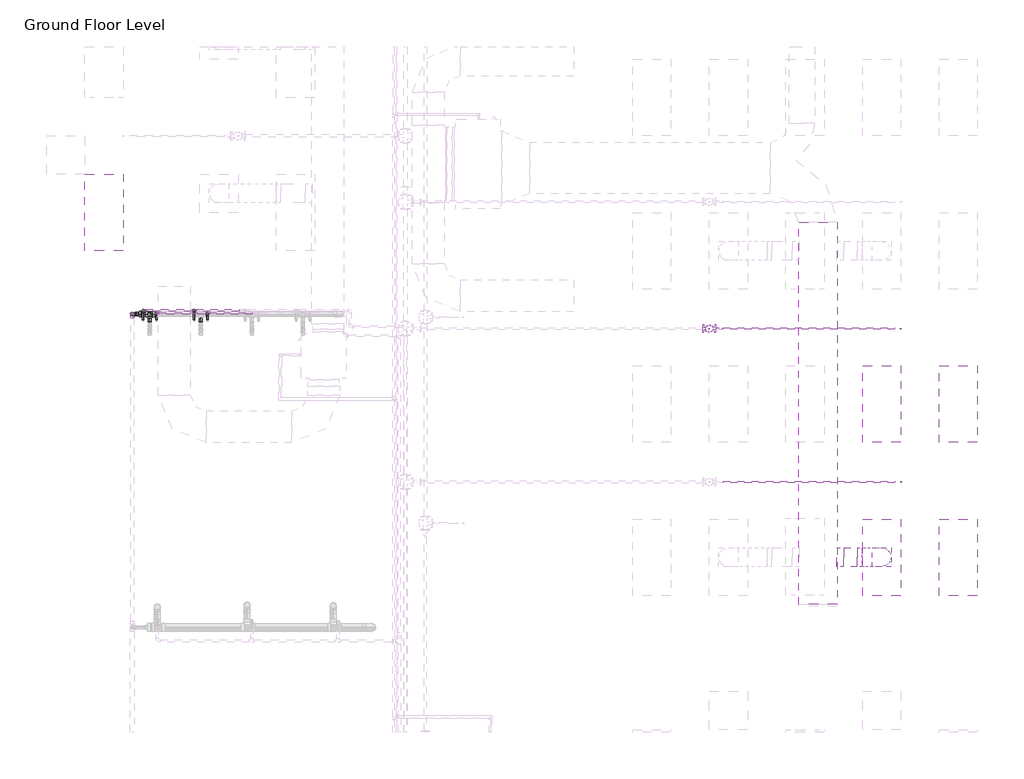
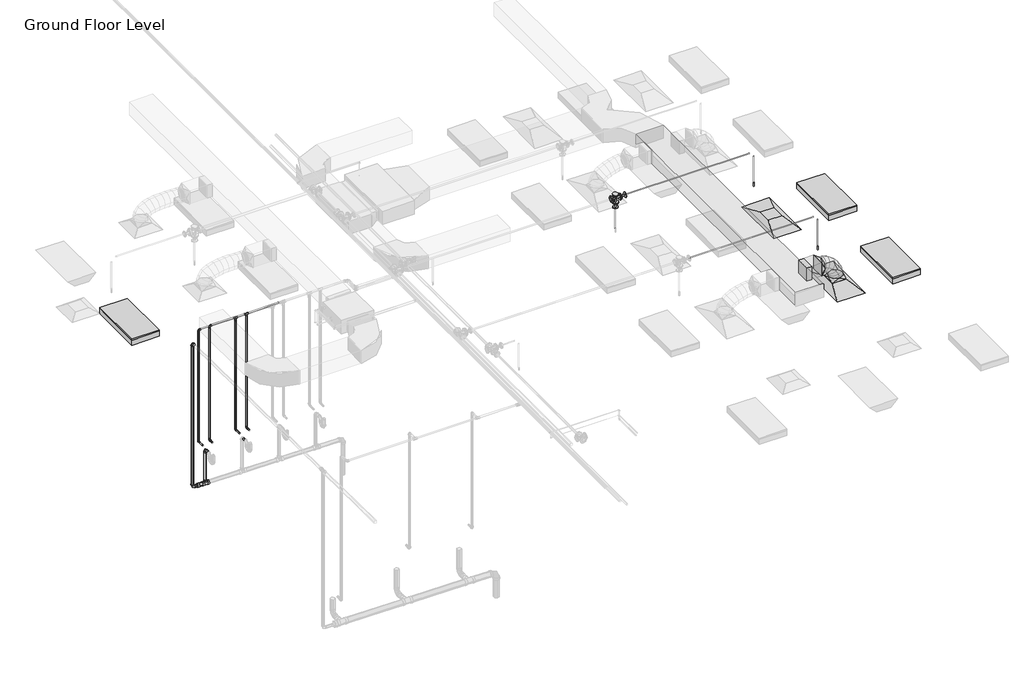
# One storey, part 23 of 74: 23 pipe segments, 16 pipe fittings, 3 duct fittings, 3 duct segments, 3 light fixtures, 2 air terminals, 2 fire suppression terminals.
"""IFC4 building model written with IfcOpenShell, lengths in millimetres."""

from ifc_helpers import new_model, si_unit, point, frame, frame_2d, origin, place, context, project, spatial, polyline, circle_curve, ellipse_curve, trimmed, segment, composite_curve, outline, extrude, transform, mapped, element, save
from ifc_brep_helpers import plane_surface, cylinder_surface, advanced_brep
from components import m_return_diffuser_1200x600_1200_x_600_face_300_x_300_d1983ef6, m_rectangular_takeoff_standard_cb0ccb98, m_rectangular_to_round_transition_angle_45_degree_641efff0, m_sprinkler_dry_pendent_hosted_15_mm_dry_pendent_9bda8e11, m_troffer_light_parabolic_rectangular1_0600x1200mm_4_lamp_86473d4a, m_bend_pvc_sch_40_dwv_standard_1e7bdcc1, m_bend_pvc_sch_40_dwv_standard_b3f66ba9, m_bend_pvc_sch_40_dwv_standard_8255d195, m_reducer_flanged_cs_class_150_standard_ccf252ad, m_reducer_pvc_sch_40_dwv_standard_391ccf0e, m_tee_reducing_sanitary_pvc_sch_40_dwv_standard_21d2848c, m_tee_round_base_flanged_cs_class_150_standard_7e5987a1, standard_b266ab3f, standard_636910a4

model = new_model("IFC4")

# Units and contexts
model_context = context("Model", 3, world=origin())
ifc_project = project(units=[si_unit("LENGTHUNIT", "METRE", prefix="MILLI")], contexts=[model_context])

# Site, building, storey
site = spatial("IfcSite", under=ifc_project)
building = spatial("IfcBuilding", under=site)
storey = spatial("IfcBuildingStorey", under=building, Name="Ground Floor Level", Elevation=900.0)

# Air terminals
placement = place(None, origin())
m_return_diffuser_1200x600_1200_x_600_face_300_x_300_shape = m_return_diffuser_1200x600_1200_x_600_face_300_x_300_d1983ef6(model_context)
element("IfcAirTerminal", 1, ObjectType="M_Return Diffuser 1200x600 : 1200 x 600 Face 300 x 300 Connection", at=placement, inside=storey, context=model_context, shape_type="MappedRepresentation", body=[
    mapped(m_return_diffuser_1200x600_1200_x_600_face_300_x_300_shape, transform((13143.0482736, -25264.7846466, 3650.0), x_axis=(0.0, 1.0, 0.0), y_axis=(-1.0, 0.0, 0.0), z_axis=(0.0, 0.0, 1.0))),
])
element("IfcAirTerminal", 2, ObjectType="M_Supply Diffuser 1200x600 : 1200 x 600 Face 300 x 300 Connection", at=placement, inside=storey, context=model_context, shape_type="MappedRepresentation", body=[
    mapped(m_return_diffuser_1200x600_1200_x_600_face_300_x_300_shape, transform((13143.0482736, -27664.7846466, 3650.0), x_axis=(0.0, 1.0, 0.0), y_axis=(-1.0, 0.0, 0.0), z_axis=(0.0, 0.0, 1.0))),
])

# Duct fittings
m_rectangular_takeoff_standard_shape = m_rectangular_takeoff_standard_cb0ccb98(model_context)
element("IfcDuctFitting", 3, ObjectType="M_Rectangular Takeoff : Standard", at=placement, inside=storey, context=model_context, shape_type="MappedRepresentation", body=[
    mapped(m_rectangular_takeoff_standard_shape, transform((12447.7826463, -27664.7846466, 4150.0), x_axis=(1.0, 0.0, 0.0), y_axis=(0.0, -1.0, 0.0), z_axis=(0.0, 0.0, -1.0))),
])
m_rectangular_to_round_transition_angle_45_degree_shape = m_rectangular_to_round_transition_angle_45_degree_641efff0(model_context)
element("IfcDuctFitting", 4, ObjectType="M_Rectangular to Round Transition - Angle : 45 Degree", at=placement, inside=storey, context=model_context, shape_type="MappedRepresentation", body=[
    mapped(m_rectangular_to_round_transition_angle_45_degree_shape, transform((13143.0482736, -27664.7846466, 3751.6), x_axis=(0.0, 0.0, 1.0), y_axis=(-1.0, 0.0, 0.0), z_axis=(0.0, -1.0, 0.0))),
])
element("IfcDuctFitting", 5, ObjectType="M_Rectangular to Round Transition - Angle : 45 Degree", at=placement, inside=storey, context=model_context, shape_type="MappedRepresentation", body=[
    mapped(m_rectangular_to_round_transition_angle_45_degree_shape, transform((12761.6123697, -27664.7846466, 4150.0), x_axis=(1.0, 0.0, 0.0), y_axis=(0.0, 1.0, 0.0), z_axis=(0.0, 0.0, 1.0))),
])

# Duct segments
element("IfcDuctSegment", 6, ObjectType="Flex - Round", at=placement, inside=storey, context=model_context, shape_type="AdvancedBrep", body=[
    advanced_brep(
    [(13293.0482736, -27664.7846466, 3826.6), (13143.0482736, -27814.7846466, 3826.6), (12993.0482736, -27664.7846466, 3826.6), (13143.0482736, -27514.7846466, 3826.6), (13293.0482736, -27664.7846466, 3876.0801767), (13143.0482736, -27814.7846466, 3855.2056793), (12993.0482736, -27664.7846466, 3834.331182), (13143.0482736, -27514.7846466, 3855.2056793), (13265.1827192, -27664.7846466, 3974.2594203), (13125.4356677, -27814.7846466, 3917.2605124), (12985.6886162, -27664.7846466, 3860.2616044), (13125.4356677, -27514.7846466, 3917.2605124), (13200.6413272, -27664.7846466, 4092.9659573), (13077.9530197, -27814.7846466, 4004.5920764), (12955.2647122, -27664.7846466, 3916.2181955), (13077.9530197, -27514.7846466, 4004.5920764), (13104.756489, -27664.7846466, 4195.7964668), (13008.6330843, -27814.7846466, 4078.9333843), (12912.5096796, -27664.7846466, 3962.0703018), (13008.6330843, -27514.7846466, 4078.9333843), (12990.1100986, -27664.7846466, 4267.0876603), (12925.5086161, -27814.7846466, 4130.6231281), (12860.9071335, -27664.7846466, 3994.1585959), (12925.5086161, -27514.7846466, 4130.6231281), (12893.3774283, -27664.7846466, 4300.0), (12868.5580444, -27814.7846466, 4150.0), (12843.7386605, -27664.7846466, 4000.0), (12868.5580444, -27514.7846466, 4150.0), (12836.6123697, -27664.7846466, 4300.0), (12836.6123697, -27814.7846466, 4150.0), (12836.6123697, -27664.7846466, 4000.0), (12836.6123697, -27514.7846466, 4150.0)],
    [
        (0, 1, circle_curve(frame((13143.0482736, -27664.7846466, 3826.6), z_axis=(0.0, 0.0, -1.0), x_axis=(1.0, 0.0, 0.0)), 150.0)),
        (1, 2, circle_curve(frame((13143.0482736, -27664.7846466, 3826.6), z_axis=(0.0, 0.0, -1.0), x_axis=(1.0, 0.0, 0.0)), 150.0)),
        (2, 3, circle_curve(frame((13143.0482736, -27664.7846466, 3826.6), z_axis=(0.0, 0.0, -1.0), x_axis=(1.0, 0.0, 0.0)), 150.0)),
        (3, 0, circle_curve(frame((13143.0482736, -27664.7846466, 3826.6), z_axis=(0.0, 0.0, -1.0), x_axis=(1.0, 0.0, 0.0)), 150.0)),
        (0, 4),
        (4, 5, ellipse_curve(frame((13143.0482736, -27664.7846466, 3855.2056793), z_axis=(0.13783502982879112, 0.0, -0.990455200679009), x_axis=(-0.990455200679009, 0.0, -0.1378350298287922)), 151.4455171, 150.0)),
        (5, 1),
        (5, 6, ellipse_curve(frame((13143.0482736, -27664.7846466, 3855.2056793), z_axis=(0.13783502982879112, 0.0, -0.990455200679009), x_axis=(-0.990455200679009, 0.0, -0.1378350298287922)), 151.4455171, 150.0)),
        (6, 2),
        (6, 7, ellipse_curve(frame((13143.0482736, -27664.7846466, 3855.2056793), z_axis=(0.13783502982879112, 0.0, -0.990455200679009), x_axis=(-0.990455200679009, 0.0, -0.1378350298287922)), 151.4455171, 150.0)),
        (7, 3),
        (7, 4, ellipse_curve(frame((13143.0482736, -27664.7846466, 3855.2056793), z_axis=(0.13783502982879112, 0.0, -0.990455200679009), x_axis=(-0.990455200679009, 0.0, -0.1378350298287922)), 151.4455171, 150.0)),
        (4, 8),
        (8, 9, ellipse_curve(frame((13125.4356677, -27664.7846466, 3917.2605124), z_axis=(0.37766579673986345, 0.0, -0.9259419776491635), x_axis=(-0.9259419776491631, 0.0, -0.3776657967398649)), 150.9241992, 150.0)),
        (9, 5),
        (9, 10, ellipse_curve(frame((13125.4356677, -27664.7846466, 3917.2605124), z_axis=(0.37766579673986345, 0.0, -0.9259419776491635), x_axis=(-0.9259419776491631, 0.0, -0.3776657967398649)), 150.9241992, 150.0)),
        (10, 6),
        (10, 11, ellipse_curve(frame((13125.4356677, -27664.7846466, 3917.2605124), z_axis=(0.37766579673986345, 0.0, -0.9259419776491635), x_axis=(-0.9259419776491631, 0.0, -0.3776657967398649)), 150.9241992, 150.0)),
        (11, 7),
        (11, 8, ellipse_curve(frame((13125.4356677, -27664.7846466, 3917.2605124), z_axis=(0.37766579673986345, 0.0, -0.9259419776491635), x_axis=(-0.9259419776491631, 0.0, -0.3776657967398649)), 150.9241992, 150.0)),
        (8, 12),
        (12, 13, ellipse_curve(frame((13077.9530197, -27664.7846466, 4004.5920764), z_axis=(0.584471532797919, 0.0, -0.8114142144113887), x_axis=(-0.8114142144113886, 0.0, -0.5844715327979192)), 151.2030542, 150.0)),
        (13, 9),
        (13, 14, ellipse_curve(frame((13077.9530197, -27664.7846466, 4004.5920764), z_axis=(0.584471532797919, 0.0, -0.8114142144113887), x_axis=(-0.8114142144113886, 0.0, -0.5844715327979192)), 151.2030542, 150.0)),
        (14, 10),
        (14, 15, ellipse_curve(frame((13077.9530197, -27664.7846466, 4004.5920764), z_axis=(0.584471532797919, 0.0, -0.8114142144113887), x_axis=(-0.8114142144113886, 0.0, -0.5844715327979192)), 151.2030542, 150.0)),
        (15, 11),
        (15, 12, ellipse_curve(frame((13077.9530197, -27664.7846466, 4004.5920764), z_axis=(0.584471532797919, 0.0, -0.8114142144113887), x_axis=(-0.8114142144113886, 0.0, -0.5844715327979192)), 151.2030542, 150.0)),
        (12, 16),
        (16, 17, ellipse_curve(frame((13008.6330843, -27664.7846466, 4078.9333843), z_axis=(0.7723088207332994, 0.0, -0.6352472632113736), x_axis=(-0.6352472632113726, 0.0, -0.7723088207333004)), 151.3165192, 150.0)),
        (17, 13),
        (17, 18, ellipse_curve(frame((13008.6330843, -27664.7846466, 4078.9333843), z_axis=(0.7723088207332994, 0.0, -0.6352472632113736), x_axis=(-0.6352472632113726, 0.0, -0.7723088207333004)), 151.3165192, 150.0)),
        (18, 14),
        (18, 19, ellipse_curve(frame((13008.6330843, -27664.7846466, 4078.9333843), z_axis=(0.7723088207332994, 0.0, -0.6352472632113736), x_axis=(-0.6352472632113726, 0.0, -0.7723088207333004)), 151.3165192, 150.0)),
        (19, 15),
        (19, 16, ellipse_curve(frame((13008.6330843, -27664.7846466, 4078.9333843), z_axis=(0.7723088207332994, 0.0, -0.6352472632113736), x_axis=(-0.6352472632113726, 0.0, -0.7723088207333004)), 151.3165192, 150.0)),
        (16, 20),
        (20, 21, ellipse_curve(frame((12925.5086161, -27664.7846466, 4130.6231281), z_axis=(0.9038393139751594, 0.0, -0.4278720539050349), x_axis=(-0.42787205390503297, 0.0, -0.9038393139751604)), 150.9831782, 150.0)),
        (21, 17),
        (21, 22, ellipse_curve(frame((12925.5086161, -27664.7846466, 4130.6231281), z_axis=(0.9038393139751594, 0.0, -0.4278720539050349), x_axis=(-0.42787205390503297, 0.0, -0.9038393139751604)), 150.9831782, 150.0)),
        (22, 18),
        (22, 23, ellipse_curve(frame((12925.5086161, -27664.7846466, 4130.6231281), z_axis=(0.9038393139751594, 0.0, -0.4278720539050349), x_axis=(-0.42787205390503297, 0.0, -0.9038393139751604)), 150.9831782, 150.0)),
        (23, 19),
        (23, 20, ellipse_curve(frame((12925.5086161, -27664.7846466, 4130.6231281), z_axis=(0.9038393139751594, 0.0, -0.4278720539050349), x_axis=(-0.42787205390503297, 0.0, -0.9038393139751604)), 150.9831782, 150.0)),
        (20, 24),
        (24, 25, ellipse_curve(frame((12868.5580444, -27664.7846466, 4150.0), z_axis=(0.9865858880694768, 0.0, -0.1632430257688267), x_axis=(-0.16324302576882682, 0.0, -0.9865858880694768)), 152.0394745, 150.0)),
        (25, 21),
        (25, 26, ellipse_curve(frame((12868.5580444, -27664.7846466, 4150.0), z_axis=(0.9865858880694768, 0.0, -0.1632430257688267), x_axis=(-0.16324302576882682, 0.0, -0.9865858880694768)), 152.0394745, 150.0)),
        (26, 22),
        (26, 27, ellipse_curve(frame((12868.5580444, -27664.7846466, 4150.0), z_axis=(0.9865858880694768, 0.0, -0.1632430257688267), x_axis=(-0.16324302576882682, 0.0, -0.9865858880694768)), 152.0394745, 150.0)),
        (27, 23),
        (27, 24, ellipse_curve(frame((12868.5580444, -27664.7846466, 4150.0), z_axis=(0.9865858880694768, 0.0, -0.1632430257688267), x_axis=(-0.16324302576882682, 0.0, -0.9865858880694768)), 152.0394745, 150.0)),
        (24, 28),
        (28, 29, circle_curve(frame((12836.6123697, -27664.7846466, 4150.0), z_axis=(1.0, 0.0, 0.0), x_axis=(0.0, 0.0, 1.0)), 150.0)),
        (29, 25),
        (29, 30, circle_curve(frame((12836.6123697, -27664.7846466, 4150.0), z_axis=(1.0, 0.0, 0.0), x_axis=(0.0, 0.0, 1.0)), 150.0)),
        (30, 26),
        (30, 31, circle_curve(frame((12836.6123697, -27664.7846466, 4150.0), z_axis=(1.0, 0.0, 0.0), x_axis=(0.0, 0.0, 1.0)), 150.0)),
        (31, 27),
        (31, 28, circle_curve(frame((12836.6123697, -27664.7846466, 4150.0), z_axis=(1.0, 0.0, 0.0), x_axis=(0.0, 0.0, 1.0)), 150.0)),
    ],
    [
        plane_surface(frame((13143.0482736, -27814.7846466, 3826.6), z_axis=(0.0, 0.0, -1.0), x_axis=(1.0, 0.0, 0.0))),
        cylinder_surface(frame((13143.0482736, -27664.7846466, 3826.6), z_axis=(0.0, 0.0, -1.0), x_axis=(1.0, 0.0, 0.0)), 150.0),
        cylinder_surface(frame((13143.0482736, -27664.7846466, 3855.2056793), z_axis=(0.27303884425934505, 0.0, -0.9620030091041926), x_axis=(0.9620030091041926, 0.0, 0.27303884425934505)), 150.0),
        cylinder_surface(frame((13125.4356677, -27664.7846466, 3917.2605124), z_axis=(0.4776674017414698, 0.0, -0.8785407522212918), x_axis=(0.8785407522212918, 0.0, 0.4776674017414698)), 150.0),
        cylinder_surface(frame((13077.9530197, -27664.7846466, 4004.5920764), z_axis=(0.6819749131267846, 0.0, -0.7313755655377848), x_axis=(0.7313755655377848, 0.0, 0.6819749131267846)), 150.0),
        cylinder_surface(frame((13008.6330843, -27664.7846466, 4078.9333843), z_axis=(0.8492038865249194, 0.0, -0.5280651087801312), x_axis=(0.5280651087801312, 0.0, 0.8492038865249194)), 150.0),
        cylinder_surface(frame((12925.5086161, -27664.7846466, 4130.6231281), z_axis=(0.9467034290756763, 0.0, -0.32210653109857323), x_axis=(0.32210653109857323, 0.0, 0.9467034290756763)), 150.0),
        cylinder_surface(frame((12868.5580444, -27664.7846466, 4150.0), z_axis=(1.0, 0.0, 0.0), x_axis=(0.0, 0.0, 1.0)), 150.0),
        plane_surface(frame((12836.6123697, -27664.7846466, 4000.0), z_axis=(-1.0, 0.0, 0.0), x_axis=(0.0, -1.0, 0.0))),
    ],
    [
        (0, [[1, 2, 3, 4]]),
        (1, [[-1, 5, 6, 7]]),
        (1, [[-2, -7, 8, 9]]),
        (1, [[-3, -9, 10, 11]]),
        (1, [[-4, -11, 12, -5]]),
        (2, [[-6, 13, 14, 15]]),
        (2, [[-8, -15, 16, 17]]),
        (2, [[-10, -17, 18, 19]]),
        (2, [[-12, -19, 20, -13]]),
        (3, [[-14, 21, 22, 23]]),
        (3, [[-16, -23, 24, 25]]),
        (3, [[-18, -25, 26, 27]]),
        (3, [[-20, -27, 28, -21]]),
        (4, [[-22, 29, 30, 31]]),
        (4, [[-24, -31, 32, 33]]),
        (4, [[-26, -33, 34, 35]]),
        (4, [[-28, -35, 36, -29]]),
        (5, [[-30, 37, 38, 39]]),
        (5, [[-32, -39, 40, 41]]),
        (5, [[-34, -41, 42, 43]]),
        (5, [[-36, -43, 44, -37]]),
        (6, [[-38, 45, 46, 47]]),
        (6, [[-40, -47, 48, 49]]),
        (6, [[-42, -49, 50, 51]]),
        (6, [[-44, -51, 52, -45]]),
        (7, [[-46, 53, 54, 55]]),
        (7, [[-48, -55, 56, 57]]),
        (7, [[-50, -57, 58, 59]]),
        (7, [[-52, -59, 60, -53]]),
        (8, [[-60, -58, -56, -54]]),
    ],
),
])
element("IfcDuctSegment", 7, ObjectType="Radius Elbows / Taps", at=placement, inside=storey, context=model_context, shape_type="SweptSolid", body=[
    extrude(outline(polyline([(12447.7826463, -28403.2846466), (11847.7826463, -28403.2846466), (11847.7826463, -22416.5689179), (12447.7826463, -22416.5689179), (12447.7826463, -28403.2846466)])), frame((0.0, 0.0, 4000.0002153), z_axis=(0.0, 0.0, 1.0), x_axis=(1.0, 0.0, 0.0)), (0.0, 0.0, 1.0), 300.0),
])
element("IfcDuctSegment", 8, ObjectType="Radius Elbows / Taps", at=placement, inside=storey, context=model_context, shape_type="SweptSolid", body=[
    extrude(outline(polyline([(12549.3826463, -27814.7846466), (12549.3826463, -27514.7846466), (12761.6123697, -27514.7846466), (12761.6123697, -27814.7846466), (12549.3826463, -27814.7846466)])), frame((0.0, 0.0, 4000.0), z_axis=(0.0, 0.0, 1.0), x_axis=(1.0, 0.0, 0.0)), (0.0, 0.0, 1.0), 300.0),
])

# Fire suppression terminals
m_sprinkler_dry_pendent_hosted_15_mm_dry_pendent_shape = m_sprinkler_dry_pendent_hosted_15_mm_dry_pendent_9bda8e11(model_context)
element("IfcFireSuppressionTerminal", 9, ObjectType="M_Sprinkler - Dry - Pendent - Hosted : 15 mm Dry Pendent", at=placement, inside=storey, context=model_context, shape_type="MappedRepresentation", body=[
    mapped(m_sprinkler_dry_pendent_hosted_15_mm_dry_pendent_shape, transform((13443.0482736, -24083.6779349, 3650.0), x_axis=(1.0, 0.0, 0.0), y_axis=(0.0, -1.0, 0.0), z_axis=(0.0, 0.0, -1.0))),
])
element("IfcFireSuppressionTerminal", 10, ObjectType="M_Sprinkler - Dry - Pendent - Hosted : 15 mm Dry Pendent", at=placement, inside=storey, context=model_context, shape_type="MappedRepresentation", body=[
    mapped(m_sprinkler_dry_pendent_hosted_15_mm_dry_pendent_shape, transform((13443.0482736, -26484.6295433, 3650.0), x_axis=(1.0, 0.0, 0.0), y_axis=(0.0, -1.0, 0.0), z_axis=(0.0, 0.0, -1.0))),
])

# Light fixtures
m_troffer_light_parabolic_rectangular1_0600x1200mm_4_lamp_shape = m_troffer_light_parabolic_rectangular1_0600x1200mm_4_lamp_86473d4a(model_context)
element("IfcLightFixture", 11, ObjectType="M_Troffer Light - Parabolic Rectangular1 : 0600x1200mm(4 Lamp) - 277V 2", at=placement, inside=storey, context=model_context, shape_type="MappedRepresentation", body=[
    mapped(m_troffer_light_parabolic_rectangular1_0600x1200mm_4_lamp_shape, transform((903.3013074, -22246.081145, 3650.0), x_axis=(0.0, 1.0, 0.0), y_axis=(-1.0, 0.0, 0.0), z_axis=(0.0, 0.0, 1.0))),
])
element("IfcLightFixture", 12, ObjectType="M_Troffer Light - Parabolic Rectangular1 : 0600x1200mm(4 Lamp) - 277V 2", at=placement, inside=storey, context=model_context, shape_type="MappedRepresentation", body=[
    mapped(m_troffer_light_parabolic_rectangular1_0600x1200mm_4_lamp_shape, transform((14283.5823415, -25246.081145, 3650.0), x_axis=(0.0, 1.0, 0.0), y_axis=(-1.0, 0.0, 0.0), z_axis=(0.0, 0.0, 1.0))),
])
element("IfcLightFixture", 13, ObjectType="M_Troffer Light - Parabolic Rectangular1 : 0600x1200mm(4 Lamp) - 277V 2", at=placement, inside=storey, context=model_context, shape_type="MappedRepresentation", body=[
    mapped(m_troffer_light_parabolic_rectangular1_0600x1200mm_4_lamp_shape, transform((14283.5823415, -27646.081145, 3650.0), x_axis=(0.0, 1.0, 0.0), y_axis=(-1.0, 0.0, 0.0), z_axis=(0.0, 0.0, 1.0))),
])

# Pipe fittings
m_bend_pvc_sch_40_dwv_standard_shape = m_bend_pvc_sch_40_dwv_standard_1e7bdcc1(model_context)
element("IfcPipeFitting", 14, ObjectType="M_Bend - PVC - Sch 40 - DWV : Standard", at=placement, inside=storey, context=model_context, shape_type="MappedRepresentation", body=[
    mapped(m_bend_pvc_sch_40_dwv_standard_shape, transform((1404.8669708, -23854.2948449, 739.8083289), x_axis=(-0.9999500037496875, 0.0, 0.009999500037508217), y_axis=(0.009999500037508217, 0.0, 0.9999500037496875), z_axis=(0.0, 1.0, 0.0))),
])
m_bend_pvc_sch_40_dwv_standard_2_shape = m_bend_pvc_sch_40_dwv_standard_b3f66ba9(model_context)
element("IfcPipeFitting", 15, ObjectType="M_Bend - PVC - Sch 40 - DWV : Standard", at=placement, inside=storey, context=model_context, shape_type="MappedRepresentation", body=[
    mapped(m_bend_pvc_sch_40_dwv_standard_2_shape, transform((1678.7498, -23854.294392, 1508.3087469), x_axis=(0.0, 0.9999578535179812, -0.009181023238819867), y_axis=(0.0, -0.009181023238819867, -0.9999578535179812), z_axis=(-1.0, 0.0, 0.0))),
])
m_bend_pvc_sch_40_dwv_standard_3_shape = m_bend_pvc_sch_40_dwv_standard_8255d195(model_context)
element("IfcPipeFitting", 16, ObjectType="M_Bend - PVC - Sch 40 - DWV : Standard", at=placement, inside=storey, context=model_context, shape_type="MappedRepresentation", body=[
    mapped(m_bend_pvc_sch_40_dwv_standard_3_shape, transform((1404.8829692, -23854.3136394, 4037.9287036), x_axis=(0.0, 0.0, 1.0), y_axis=(0.0, -1.0, 0.0), z_axis=(1.0, 0.0, 0.0))),
])
m_reducer_flanged_cs_class_150_standard_shape = m_reducer_flanged_cs_class_150_standard_ccf252ad(model_context)
element("IfcPipeFitting", 17, ObjectType="M_Reducer - Flanged - CS - Class 150 : Standard", at=placement, inside=storey, context=model_context, shape_type="MappedRepresentation", body=[
    mapped(m_reducer_flanged_cs_class_150_standard_shape, transform((10543.7568674, -24083.6779349, 4347.5), x_axis=(1.0, 0.0, 0.0), y_axis=(0.0, 0.0, 1.0), z_axis=(0.0, -1.0, 0.0))),
])
element("IfcPipeFitting", 18, ObjectType="M_Reducer - Flanged - CS - Class 150 : Standard", at=placement, inside=storey, context=model_context, shape_type="MappedRepresentation", body=[
    mapped(m_reducer_flanged_cs_class_150_standard_shape, transform((10443.0482736, -24083.6779349, 4246.7914063), x_axis=(0.0, 0.0, -1.0), y_axis=(-1.0, 0.0, 0.0), z_axis=(0.0, 1.0, 0.0))),
])
m_reducer_pvc_sch_40_dwv_standard_shape = m_reducer_pvc_sch_40_dwv_standard_391ccf0e(model_context)
element("IfcPipeFitting", 19, ObjectType="M_Reducer - PVC - Sch 40 - DWV : Standard", at=placement, inside=storey, context=model_context, shape_type="MappedRepresentation", body=[
    mapped(m_reducer_pvc_sch_40_dwv_standard_shape, transform((1477.4242491, -23854.2948449, 739.0827561), x_axis=(0.9999500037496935, 0.0, -0.00999950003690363), y_axis=(0.0, 1.0, 0.0), z_axis=(0.00999950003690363, 0.0, 0.9999500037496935))),
])
m_tee_reducing_sanitary_pvc_sch_40_dwv_standard_shape = m_tee_reducing_sanitary_pvc_sch_40_dwv_standard_21d2848c(model_context)
element("IfcPipeFitting", 20, ObjectType="M_Tee Reducing Sanitary - PVC - Sch 40 - DWV : Standard", at=placement, inside=storey, context=model_context, shape_type="MappedRepresentation", body=[
    mapped(m_tee_reducing_sanitary_pvc_sch_40_dwv_standard_shape, transform((1678.7498, -23854.294392, 737.0632162), x_axis=(-0.9999500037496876, 0.0, 0.009999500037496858), y_axis=(-0.009999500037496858, 0.0, -0.9999500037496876), z_axis=(0.0, -1.0, 0.0))),
])
m_tee_round_base_flanged_cs_class_150_standard_shape = m_tee_round_base_flanged_cs_class_150_standard_7e5987a1(model_context)
element("IfcPipeFitting", 21, ObjectType="M_Tee Round Base - Flanged - CS - Class 150 : Standard", at=placement, inside=storey, context=model_context, shape_type="MappedRepresentation", body=[
    mapped(m_tee_round_base_flanged_cs_class_150_standard_shape, transform((10443.0482736, -24083.6779349, 4347.5), x_axis=(1.0, 0.0, 0.0), y_axis=(0.0, 0.0, 1.0), z_axis=(0.0, -1.0, 0.0))),
])
standard_shape = standard_b266ab3f(model_context)
element("IfcPipeFitting", 22, ObjectType="M_Elbow - CPVC - Sch 40 : Standard", at=placement, inside=storey, context=model_context, shape_type="MappedRepresentation", body=[
    mapped(standard_shape, transform((1783.0647206, -23844.7846466, 1690.0), x_axis=(0.0, 0.0, -1.0), y_axis=(0.0, -1.0, 0.0), z_axis=(-1.0, 0.0, 0.0))),
])
element("IfcPipeFitting", 23, ObjectType="M_Elbow - CPVC - Sch 40 : Standard", at=placement, inside=storey, context=model_context, shape_type="MappedRepresentation", body=[
    mapped(standard_shape, transform((2583.0647206, -23844.7846466, 1690.0), x_axis=(0.0, 0.0, -1.0), y_axis=(0.0, -1.0, 0.0), z_axis=(-1.0, 0.0, 0.0))),
])
element("IfcPipeFitting", 24, ObjectType="M_Elbow - CPVC - Sch 40 : Standard", at=placement, inside=storey, context=model_context, shape_type="MappedRepresentation", body=[
    mapped(standard_shape, transform((1783.0647206, -23844.7846466, 4300.0), x_axis=(-1.0, 0.0, 0.0), y_axis=(0.0, 0.0, -1.0), z_axis=(0.0, -1.0, 0.0))),
])
element("IfcPipeFitting", 25, ObjectType="M_Elbow - CPVC - Sch 40 : Standard", at=placement, inside=storey, context=model_context, shape_type="MappedRepresentation", body=[
    mapped(standard_shape, transform((1574.4348794, -23794.921633, 1690.0), x_axis=(0.0, 1.0, 0.0), y_axis=(0.0, 0.0, 1.0), z_axis=(1.0, 0.0, 0.0))),
])
element("IfcPipeFitting", 26, ObjectType="M_Elbow - CPVC - Sch 40 : Standard", at=placement, inside=storey, context=model_context, shape_type="MappedRepresentation", body=[
    mapped(standard_shape, transform((1574.4348794, -23794.921633, 4250.0), x_axis=(0.0, 0.0, 1.0), y_axis=(1.0, 0.0, 0.0), z_axis=(0.0, 1.0, 0.0))),
])
element("IfcPipeFitting", 27, ObjectType="M_Elbow - CPVC - Sch 40 : Standard", at=placement, inside=storey, context=model_context, shape_type="MappedRepresentation", body=[
    mapped(standard_shape, transform((2374.4348794, -23794.921633, 1690.0), x_axis=(0.0, 1.0, 0.0), y_axis=(0.0, 0.0, 1.0), z_axis=(1.0, 0.0, 0.0))),
])
standard_2_shape = standard_636910a4(model_context)
element("IfcPipeFitting", 28, ObjectType="M_Tee - CPVC - Sch 40 : Standard", at=placement, inside=storey, context=model_context, shape_type="MappedRepresentation", body=[
    mapped(standard_2_shape, transform((2583.0647206, -23844.7846466, 4300.0), x_axis=(1.0, 0.0, 0.0), y_axis=(0.0, 0.0, 1.0), z_axis=(0.0, -1.0, 0.0))),
])
element("IfcPipeFitting", 29, ObjectType="M_Tee - CPVC - Sch 40 : Standard", at=placement, inside=storey, context=model_context, shape_type="MappedRepresentation", body=[
    mapped(standard_2_shape, transform((2374.4348794, -23794.921633, 4250.0), x_axis=(-1.0, 0.0, 0.0), y_axis=(0.0, 0.0, 1.0), z_axis=(0.0, 1.0, 0.0))),
])

# Pipe segments
element("IfcPipeSegment", 30, ObjectType="CPVC", at=placement, inside=storey, context=model_context, shape_type="SweptSolid", body=[
    extrude(outline(composite_curve([segment(trimmed(circle_curve(frame_2d((1690.0, 2583.0647206)), 13.335), [point((1690.0, 2596.3997206))], [point((1703.335, 2583.0647206))], False, "CARTESIAN"), True, "CONTINUOUS"), segment(trimmed(circle_curve(frame_2d((1690.0, 2583.0647206)), 13.335), [point((1703.335, 2583.0647206))], [point((1690.0, 2569.7297206))], False, "CARTESIAN"), True, "CONTINUOUS"), segment(trimmed(circle_curve(frame_2d((1690.0, 2583.0647206)), 13.335), [point((1690.0, 2569.7297206))], [point((1676.665, 2583.0647206))], False, "CARTESIAN"), True, "CONTINUOUS"), segment(trimmed(circle_curve(frame_2d((1690.0, 2583.0647206)), 13.335), [point((1676.665, 2583.0647206))], [point((1690.0, 2596.3997206))], False, "CARTESIAN"), True, "CONTINUOUS")], self_intersect=False)), frame((0.0, -23944.7846466, 0.0), z_axis=(0.0, 1.0, 0.0), x_axis=(0.0, 0.0, 1.0)), (0.0, 0.0, 1.0), 64.67495),
])
element("IfcPipeSegment", 31, ObjectType="CPVC", at=placement, inside=storey, context=model_context, shape_type="SweptSolid", body=[
    extrude(outline(composite_curve([segment(trimmed(circle_curve(frame_2d((1690.0, 1783.0647206)), 13.335), [point((1690.0, 1796.3997206))], [point((1703.335, 1783.0647206))], False, "CARTESIAN"), True, "CONTINUOUS"), segment(trimmed(circle_curve(frame_2d((1690.0, 1783.0647206)), 13.335), [point((1703.335, 1783.0647206))], [point((1690.0, 1769.7297206))], False, "CARTESIAN"), True, "CONTINUOUS"), segment(trimmed(circle_curve(frame_2d((1690.0, 1783.0647206)), 13.335), [point((1690.0, 1769.7297206))], [point((1676.665, 1783.0647206))], False, "CARTESIAN"), True, "CONTINUOUS"), segment(trimmed(circle_curve(frame_2d((1690.0, 1783.0647206)), 13.335), [point((1676.665, 1783.0647206))], [point((1690.0, 1796.3997206))], False, "CARTESIAN"), True, "CONTINUOUS")], self_intersect=False)), frame((0.0, -23944.7846466, 0.0), z_axis=(0.0, 1.0, 0.0), x_axis=(0.0, 0.0, 1.0)), (0.0, 0.0, 1.0), 64.67495),
])
element("IfcPipeSegment", 32, ObjectType="CPVC", at=placement, inside=storey, context=model_context, shape_type="SweptSolid", body=[
    extrude(outline(composite_curve([segment(trimmed(circle_curve(frame_2d((1783.0647206, -23844.7846466)), 13.335), [point((1796.3997206, -23844.7846466))], [point((1783.0647206, -23858.1196466))], False, "CARTESIAN"), True, "CONTINUOUS"), segment(trimmed(circle_curve(frame_2d((1783.0647206, -23844.7846466)), 13.335), [point((1783.0647206, -23858.1196466))], [point((1769.7297206, -23844.7846466))], False, "CARTESIAN"), True, "CONTINUOUS"), segment(trimmed(circle_curve(frame_2d((1783.0647206, -23844.7846466)), 13.335), [point((1769.7297206, -23844.7846466))], [point((1783.0647206, -23831.4496466))], False, "CARTESIAN"), True, "CONTINUOUS"), segment(trimmed(circle_curve(frame_2d((1783.0647206, -23844.7846466)), 13.335), [point((1783.0647206, -23831.4496466))], [point((1796.3997206, -23844.7846466))], False, "CARTESIAN"), True, "CONTINUOUS")], self_intersect=False)), frame((0.0, 0.0, 1725.32505), z_axis=(0.0, 0.0, 1.0), x_axis=(1.0, 0.0, 0.0)), (0.0, 0.0, 1.0), 2539.3499),
])
element("IfcPipeSegment", 33, ObjectType="CPVC", at=placement, inside=storey, context=model_context, shape_type="SweptSolid", body=[
    extrude(outline(composite_curve([segment(trimmed(circle_curve(frame_2d((-23844.7846466, 4300.0)), 13.335), [point((-23831.4496466, 4300.0))], [point((-23844.7846466, 4286.665))], False, "CARTESIAN"), True, "CONTINUOUS"), segment(trimmed(circle_curve(frame_2d((-23844.7846466, 4300.0)), 13.335), [point((-23844.7846466, 4286.665))], [point((-23858.1196466, 4300.0))], False, "CARTESIAN"), True, "CONTINUOUS"), segment(trimmed(circle_curve(frame_2d((-23844.7846466, 4300.0)), 13.335), [point((-23858.1196466, 4300.0))], [point((-23844.7846466, 4313.335))], False, "CARTESIAN"), True, "CONTINUOUS"), segment(trimmed(circle_curve(frame_2d((-23844.7846466, 4300.0)), 13.335), [point((-23844.7846466, 4313.335))], [point((-23831.4496466, 4300.0))], False, "CARTESIAN"), True, "CONTINUOUS")], self_intersect=False)), frame((1818.3897706, 0.0, 0.0), z_axis=(1.0, 0.0, 0.0), x_axis=(0.0, 1.0, 0.0)), (0.0, 0.0, 1.0), 732.13755),
])
element("IfcPipeSegment", 34, ObjectType="CPVC", at=placement, inside=storey, context=model_context, shape_type="SweptSolid", body=[
    extrude(outline(composite_curve([segment(trimmed(circle_curve(frame_2d((2583.0647206, -23844.7846466)), 13.335), [point((2596.3997206, -23844.7846466))], [point((2583.0647206, -23858.1196466))], False, "CARTESIAN"), True, "CONTINUOUS"), segment(trimmed(circle_curve(frame_2d((2583.0647206, -23844.7846466)), 13.335), [point((2583.0647206, -23858.1196466))], [point((2569.7297206, -23844.7846466))], False, "CARTESIAN"), True, "CONTINUOUS"), segment(trimmed(circle_curve(frame_2d((2583.0647206, -23844.7846466)), 13.335), [point((2569.7297206, -23844.7846466))], [point((2583.0647206, -23831.4496466))], False, "CARTESIAN"), True, "CONTINUOUS"), segment(trimmed(circle_curve(frame_2d((2583.0647206, -23844.7846466)), 13.335), [point((2583.0647206, -23831.4496466))], [point((2596.3997206, -23844.7846466))], False, "CARTESIAN"), True, "CONTINUOUS")], self_intersect=False)), frame((0.0, 0.0, 1725.32505), z_axis=(0.0, 0.0, 1.0), x_axis=(1.0, 0.0, 0.0)), (0.0, 0.0, 1.0), 2542.13755),
])
element("IfcPipeSegment", 35, ObjectType="CPVC", at=placement, inside=storey, context=model_context, shape_type="SweptSolid", body=[
    extrude(outline(composite_curve([segment(trimmed(circle_curve(frame_2d((-23844.7846466, 4300.0)), 13.335), [point((-23831.4496466, 4300.0))], [point((-23844.7846466, 4286.665))], False, "CARTESIAN"), True, "CONTINUOUS"), segment(trimmed(circle_curve(frame_2d((-23844.7846466, 4300.0)), 13.335), [point((-23844.7846466, 4286.665))], [point((-23858.1196466, 4300.0))], False, "CARTESIAN"), True, "CONTINUOUS"), segment(trimmed(circle_curve(frame_2d((-23844.7846466, 4300.0)), 13.335), [point((-23858.1196466, 4300.0))], [point((-23844.7846466, 4313.335))], False, "CARTESIAN"), True, "CONTINUOUS"), segment(trimmed(circle_curve(frame_2d((-23844.7846466, 4300.0)), 13.335), [point((-23844.7846466, 4313.335))], [point((-23831.4496466, 4300.0))], False, "CARTESIAN"), True, "CONTINUOUS")], self_intersect=False)), frame((2615.6021206, 0.0, 0.0), z_axis=(1.0, 0.0, 0.0), x_axis=(0.0, 1.0, 0.0)), (0.0, 0.0, 1.0), 670.6124),
])
element("IfcPipeSegment", 36, ObjectType="CPVC", at=placement, inside=storey, context=model_context, shape_type="SweptSolid", body=[
    extrude(outline(composite_curve([segment(trimmed(circle_curve(frame_2d((1690.0, 1574.4348794)), 13.335), [point((1690.0, 1587.7698794))], [point((1703.335, 1574.4348794))], False, "CARTESIAN"), True, "CONTINUOUS"), segment(trimmed(circle_curve(frame_2d((1690.0, 1574.4348794)), 13.335), [point((1703.335, 1574.4348794))], [point((1690.0, 1561.0998794))], False, "CARTESIAN"), True, "CONTINUOUS"), segment(trimmed(circle_curve(frame_2d((1690.0, 1574.4348794)), 13.335), [point((1690.0, 1561.0998794))], [point((1676.665, 1574.4348794))], False, "CARTESIAN"), True, "CONTINUOUS"), segment(trimmed(circle_curve(frame_2d((1690.0, 1574.4348794)), 13.335), [point((1676.665, 1574.4348794))], [point((1690.0, 1587.7698794))], False, "CARTESIAN"), True, "CONTINUOUS")], self_intersect=False)), frame((0.0, -23944.7846466, 0.0), z_axis=(0.0, 1.0, 0.0), x_axis=(0.0, 0.0, 1.0)), (0.0, 0.0, 1.0), 114.5379636),
])
element("IfcPipeSegment", 37, ObjectType="CPVC", at=placement, inside=storey, context=model_context, shape_type="SweptSolid", body=[
    extrude(outline(composite_curve([segment(trimmed(circle_curve(frame_2d((1574.4348794, -23794.921633)), 13.335), [point((1561.0998794, -23794.921633))], [point((1574.4348794, -23781.586633))], False, "CARTESIAN"), True, "CONTINUOUS"), segment(trimmed(circle_curve(frame_2d((1574.4348794, -23794.921633)), 13.335), [point((1574.4348794, -23781.586633))], [point((1587.7698794, -23794.921633))], False, "CARTESIAN"), True, "CONTINUOUS"), segment(trimmed(circle_curve(frame_2d((1574.4348794, -23794.921633)), 13.335), [point((1587.7698794, -23794.921633))], [point((1574.4348794, -23808.256633))], False, "CARTESIAN"), True, "CONTINUOUS"), segment(trimmed(circle_curve(frame_2d((1574.4348794, -23794.921633)), 13.335), [point((1574.4348794, -23808.256633))], [point((1561.0998794, -23794.921633))], False, "CARTESIAN"), True, "CONTINUOUS")], self_intersect=False)), frame((0.0, 0.0, 1725.32505), z_axis=(0.0, 0.0, 1.0), x_axis=(1.0, 0.0, 0.0)), (0.0, 0.0, 1.0), 2489.3499),
])
element("IfcPipeSegment", 38, ObjectType="CPVC", at=placement, inside=storey, context=model_context, shape_type="SweptSolid", body=[
    extrude(outline(composite_curve([segment(trimmed(circle_curve(frame_2d((1690.0, 2374.4348794)), 13.335), [point((1690.0, 2387.7698794))], [point((1703.335, 2374.4348794))], False, "CARTESIAN"), True, "CONTINUOUS"), segment(trimmed(circle_curve(frame_2d((1690.0, 2374.4348794)), 13.335), [point((1703.335, 2374.4348794))], [point((1690.0, 2361.0998794))], False, "CARTESIAN"), True, "CONTINUOUS"), segment(trimmed(circle_curve(frame_2d((1690.0, 2374.4348794)), 13.335), [point((1690.0, 2361.0998794))], [point((1676.665, 2374.4348794))], False, "CARTESIAN"), True, "CONTINUOUS"), segment(trimmed(circle_curve(frame_2d((1690.0, 2374.4348794)), 13.335), [point((1676.665, 2374.4348794))], [point((1690.0, 2387.7698794))], False, "CARTESIAN"), True, "CONTINUOUS")], self_intersect=False)), frame((0.0, -23944.7846466, 0.0), z_axis=(0.0, 1.0, 0.0), x_axis=(0.0, 0.0, 1.0)), (0.0, 0.0, 1.0), 114.5379636),
])
element("IfcPipeSegment", 39, ObjectType="CPVC", at=placement, inside=storey, context=model_context, shape_type="SweptSolid", body=[
    extrude(outline(composite_curve([segment(trimmed(circle_curve(frame_2d((2374.4348794, -23794.921633)), 13.335), [point((2361.0998794, -23794.921633))], [point((2374.4348794, -23781.586633))], False, "CARTESIAN"), True, "CONTINUOUS"), segment(trimmed(circle_curve(frame_2d((2374.4348794, -23794.921633)), 13.335), [point((2374.4348794, -23781.586633))], [point((2387.7698794, -23794.921633))], False, "CARTESIAN"), True, "CONTINUOUS"), segment(trimmed(circle_curve(frame_2d((2374.4348794, -23794.921633)), 13.335), [point((2387.7698794, -23794.921633))], [point((2374.4348794, -23808.256633))], False, "CARTESIAN"), True, "CONTINUOUS"), segment(trimmed(circle_curve(frame_2d((2374.4348794, -23794.921633)), 13.335), [point((2374.4348794, -23808.256633))], [point((2361.0998794, -23794.921633))], False, "CARTESIAN"), True, "CONTINUOUS")], self_intersect=False)), frame((0.0, 0.0, 1725.32505), z_axis=(0.0, 0.0, 1.0), x_axis=(1.0, 0.0, 0.0)), (0.0, 0.0, 1.0), 2492.13755),
])
element("IfcPipeSegment", 40, ObjectType="CPVC", at=placement, inside=storey, context=model_context, shape_type="SweptSolid", body=[
    extrude(outline(composite_curve([segment(trimmed(circle_curve(frame_2d((-23794.921633, 4250.0)), 13.335), [point((-23808.256633, 4250.0))], [point((-23794.921633, 4263.335))], False, "CARTESIAN"), True, "CONTINUOUS"), segment(trimmed(circle_curve(frame_2d((-23794.921633, 4250.0)), 13.335), [point((-23794.921633, 4263.335))], [point((-23781.586633, 4250.0))], False, "CARTESIAN"), True, "CONTINUOUS"), segment(trimmed(circle_curve(frame_2d((-23794.921633, 4250.0)), 13.335), [point((-23781.586633, 4250.0))], [point((-23794.921633, 4236.665))], False, "CARTESIAN"), True, "CONTINUOUS"), segment(trimmed(circle_curve(frame_2d((-23794.921633, 4250.0)), 13.335), [point((-23794.921633, 4236.665))], [point((-23808.256633, 4250.0))], False, "CARTESIAN"), True, "CONTINUOUS")], self_intersect=False)), frame((1609.7599294, 0.0, 0.0), z_axis=(1.0, 0.0, 0.0), x_axis=(0.0, 1.0, 0.0)), (0.0, 0.0, 1.0), 732.13755),
])
element("IfcPipeSegment", 41, ObjectType="CPVC", at=placement, inside=storey, context=model_context, shape_type="SweptSolid", body=[
    extrude(outline(composite_curve([segment(trimmed(circle_curve(frame_2d((-23794.921633, 4250.0)), 13.335), [point((-23808.256633, 4250.0))], [point((-23794.921633, 4263.335))], False, "CARTESIAN"), True, "CONTINUOUS"), segment(trimmed(circle_curve(frame_2d((-23794.921633, 4250.0)), 13.335), [point((-23794.921633, 4263.335))], [point((-23781.586633, 4250.0))], False, "CARTESIAN"), True, "CONTINUOUS"), segment(trimmed(circle_curve(frame_2d((-23794.921633, 4250.0)), 13.335), [point((-23781.586633, 4250.0))], [point((-23794.921633, 4236.665))], False, "CARTESIAN"), True, "CONTINUOUS"), segment(trimmed(circle_curve(frame_2d((-23794.921633, 4250.0)), 13.335), [point((-23794.921633, 4236.665))], [point((-23808.256633, 4250.0))], False, "CARTESIAN"), True, "CONTINUOUS")], self_intersect=False)), frame((2406.9722794, 0.0, 0.0), z_axis=(1.0, 0.0, 0.0), x_axis=(0.0, 1.0, 0.0)), (0.0, 0.0, 1.0), 670.6124),
])
element("IfcPipeSegment", 42, ObjectType="PVC - DWV", at=placement, inside=storey, context=model_context, shape_type="SweptSolid", body=[
    extrude(outline(composite_curve([segment(trimmed(circle_curve(frame_2d((0.0, -24.13)), 24.13), [point((24.13, -24.13))], [point((0.0, -48.26))], False, "CARTESIAN"), True, "CONTINUOUS"), segment(trimmed(circle_curve(frame_2d((0.0, -24.13)), 24.13), [point((0.0, -48.26))], [point((-24.13, -24.13))], False, "CARTESIAN"), True, "CONTINUOUS"), segment(trimmed(circle_curve(frame_2d((0.0, -24.13)), 24.13), [point((-24.13, -24.13))], [point((0.0, 0.0))], False, "CARTESIAN"), True, "CONTINUOUS"), segment(trimmed(circle_curve(frame_2d((0.0, -24.13)), 24.13), [point((0.0, 0.0))], [point((24.13, -24.13))], False, "CARTESIAN"), True, "CONTINUOUS")], self_intersect=False)), frame((1678.7498, -23915.9700451, 1533.0060334), z_axis=(0.0, -0.9999578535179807, 0.009181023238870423), x_axis=(1.0, 0.0, 0.0)), (0.0, 0.0, 1.0), 60.2666161),
])
element("IfcPipeSegment", 43, ObjectType="PVC - DWV", at=placement, inside=storey, context=model_context, shape_type="SweptSolid", body=[
    extrude(outline(composite_curve([segment(trimmed(circle_curve(frame_2d((1678.7498, -23854.294392)), 24.13), [point((1654.6198, -23854.294392))], [point((1678.7498, -23830.164392))], False, "CARTESIAN"), True, "CONTINUOUS"), segment(trimmed(circle_curve(frame_2d((1678.7498, -23854.294392)), 24.13), [point((1678.7498, -23830.164392))], [point((1702.8798, -23854.294392))], False, "CARTESIAN"), True, "CONTINUOUS"), segment(trimmed(circle_curve(frame_2d((1678.7498, -23854.294392)), 24.13), [point((1702.8798, -23854.294392))], [point((1678.7498, -23878.424392))], False, "CARTESIAN"), True, "CONTINUOUS"), segment(trimmed(circle_curve(frame_2d((1678.7498, -23854.294392)), 24.13), [point((1678.7498, -23878.424392))], [point((1654.6198, -23854.294392))], False, "CARTESIAN"), True, "CONTINUOUS")], self_intersect=False)), frame((0.0, 0.0, 817.9106725), z_axis=(0.0, 0.0, 1.0), x_axis=(1.0, 0.0, 0.0)), (0.0, 0.0, 1.0), 628.4982744),
])
element("IfcPipeSegment", 44, ObjectType="PVC - DWV", at=placement, inside=storey, context=model_context, shape_type="SweptSolid", body=[
    extrude(outline(composite_curve([segment(trimmed(circle_curve(frame_2d((0.0, -24.13)), 24.13), [point((24.13, -24.13))], [point((0.0, -48.26))], False, "CARTESIAN"), True, "CONTINUOUS"), segment(trimmed(circle_curve(frame_2d((0.0, -24.13)), 24.13), [point((0.0, -48.26))], [point((-24.13, -24.13))], False, "CARTESIAN"), True, "CONTINUOUS"), segment(trimmed(circle_curve(frame_2d((0.0, -24.13)), 24.13), [point((-24.13, -24.13))], [point((0.0, 0.0))], False, "CARTESIAN"), True, "CONTINUOUS"), segment(trimmed(circle_curve(frame_2d((0.0, -24.13)), 24.13), [point((0.0, 0.0))], [point((24.13, -24.13))], False, "CARTESIAN"), True, "CONTINUOUS")], self_intersect=False)), frame((2478.7498, -23915.9502622, 1533.0071805), z_axis=(0.0, -0.9999500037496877, 0.009999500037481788), x_axis=(1.0, 0.0, 0.0)), (0.0, 0.0, 1.0), 60.2666156),
])
element("IfcPipeSegment", 45, ObjectType="PVC - DWV", at=placement, inside=storey, context=model_context, shape_type="SweptSolid", body=[
    extrude(outline(composite_curve([segment(trimmed(circle_curve(frame_2d((0.0, 36.5125001)), 36.5125), [point((-0.022041, 73.0249934))], [point((36.5124934, 36.534541))], False, "CARTESIAN"), True, "CONTINUOUS"), segment(trimmed(circle_curve(frame_2d((0.0, 36.5125001)), 36.5125), [point((36.5124934, 36.534541))], [point((0.022041, 6.7e-06))], False, "CARTESIAN"), True, "CONTINUOUS"), segment(trimmed(circle_curve(frame_2d((0.0, 36.5125001)), 36.5125), [point((0.022041, 6.7e-06))], [point((-36.5124933, 36.490459))], False, "CARTESIAN"), True, "CONTINUOUS"), segment(trimmed(circle_curve(frame_2d((0.0, 36.5125001)), 36.5125), [point((-36.5124933, 36.490459))], [point((-0.022041, 73.0249934))], False, "CARTESIAN"), True, "CONTINUOUS")], self_intersect=False)), frame((1619.2670308, -23890.8068854, 737.636004), z_axis=(-0.9999491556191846, -6.086939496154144e-06, 0.01008395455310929), x_axis=(0.010083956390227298, -0.0006035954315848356, 0.9999489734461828)), (0.0, 0.0, 1.0), 74.403843),
])
element("IfcPipeSegment", 46, ObjectType="PVC - DWV", at=placement, inside=storey, context=model_context, shape_type="SweptSolid", body=[
    extrude(outline(composite_curve([segment(trimmed(circle_curve(frame_2d((0.0, 24.13)), 24.13), [point((0.0, 48.26))], [point((24.13, 24.13))], False, "CARTESIAN"), True, "CONTINUOUS"), segment(trimmed(circle_curve(frame_2d((0.0, 24.13)), 24.13), [point((24.13, 24.13))], [point((0.0, 0.0))], False, "CARTESIAN"), True, "CONTINUOUS"), segment(trimmed(circle_curve(frame_2d((0.0, 24.13)), 24.13), [point((0.0, 0.0))], [point((-24.13, 24.13))], False, "CARTESIAN"), True, "CONTINUOUS"), segment(trimmed(circle_curve(frame_2d((0.0, 24.13)), 24.13), [point((-24.13, 24.13))], [point((0.0, 48.26))], False, "CARTESIAN"), True, "CONTINUOUS")], self_intersect=False)), frame((1477.4242491, -23878.4248449, 739.0827561), z_axis=(-0.9999500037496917, 0.0, 0.009999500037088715), x_axis=(0.009999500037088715, 0.0, 0.9999500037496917)), (0.0, 0.0, 1.0), 10.6611061),
])
element("IfcPipeSegment", 47, ObjectType="PVC - DWV", at=placement, inside=storey, context=model_context, shape_type="SweptSolid", body=[
    extrude(outline(composite_curve([segment(trimmed(circle_curve(frame_2d((0.0, 24.13)), 24.13), [point((-24.13, 24.13))], [point((0.0, 48.26))], False, "CARTESIAN"), True, "CONTINUOUS"), segment(trimmed(circle_curve(frame_2d((0.0, 24.13)), 24.13), [point((0.0, 48.26))], [point((24.13, 24.13))], False, "CARTESIAN"), True, "CONTINUOUS"), segment(trimmed(circle_curve(frame_2d((0.0, 24.13)), 24.13), [point((24.13, 24.13))], [point((0.0, 0.0))], False, "CARTESIAN"), True, "CONTINUOUS"), segment(trimmed(circle_curve(frame_2d((0.0, 24.13)), 24.13), [point((0.0, 0.0))], [point((-24.13, 24.13))], False, "CARTESIAN"), True, "CONTINUOUS")], self_intersect=False)), frame((1404.8669708, -23878.4248449, 801.707986), z_axis=(5.03994386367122e-06, -5.920779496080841e-06, 0.9999999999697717), x_axis=(0.9999999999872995, 2.984279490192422e-11, -5.039943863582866e-06)), (0.0, 0.0, 1.0), 3174.3207748),
])
element("IfcPipeSegment", 48, ObjectType="Steel flanged", at=placement, inside=storey, context=model_context, shape_type="SweptSolid", body=[
    extrude(outline(composite_curve([segment(trimmed(circle_curve(frame_2d((13443.0482736, -26484.6295433)), 10.668), [point((13432.3802736, -26484.6295433))], [point((13443.0482736, -26473.9615433))], False, "CARTESIAN"), True, "CONTINUOUS"), segment(trimmed(circle_curve(frame_2d((13443.0482736, -26484.6295433)), 10.668), [point((13443.0482736, -26473.9615433))], [point((13453.7162736, -26484.6295433))], False, "CARTESIAN"), True, "CONTINUOUS"), segment(trimmed(circle_curve(frame_2d((13443.0482736, -26484.6295433)), 10.668), [point((13453.7162736, -26484.6295433))], [point((13443.0482736, -26495.2975433))], False, "CARTESIAN"), True, "CONTINUOUS"), segment(trimmed(circle_curve(frame_2d((13443.0482736, -26484.6295433)), 10.668), [point((13443.0482736, -26495.2975433))], [point((13432.3802736, -26484.6295433))], False, "CARTESIAN"), True, "CONTINUOUS")], self_intersect=False)), frame((0.0, 0.0, 3650.0), z_axis=(0.0, 0.0, 1.0), x_axis=(1.0, 0.0, 0.0)), (0.0, 0.0, 1.0), 604.4914062),
])
element("IfcPipeSegment", 49, ObjectType="Steel flanged", at=placement, inside=storey, context=model_context, shape_type="SweptSolid", body=[
    extrude(outline(composite_curve([segment(trimmed(circle_curve(frame_2d((13443.0482736, -24083.6779349)), 10.668), [point((13432.3802736, -24083.6779349))], [point((13443.0482736, -24073.0099349))], False, "CARTESIAN"), True, "CONTINUOUS"), segment(trimmed(circle_curve(frame_2d((13443.0482736, -24083.6779349)), 10.668), [point((13443.0482736, -24073.0099349))], [point((13453.7162736, -24083.6779349))], False, "CARTESIAN"), True, "CONTINUOUS"), segment(trimmed(circle_curve(frame_2d((13443.0482736, -24083.6779349)), 10.668), [point((13453.7162736, -24083.6779349))], [point((13443.0482736, -24094.3459349))], False, "CARTESIAN"), True, "CONTINUOUS"), segment(trimmed(circle_curve(frame_2d((13443.0482736, -24083.6779349)), 10.668), [point((13443.0482736, -24094.3459349))], [point((13432.3802736, -24083.6779349))], False, "CARTESIAN"), True, "CONTINUOUS")], self_intersect=False)), frame((0.0, 0.0, 3650.0), z_axis=(0.0, 0.0, 1.0), x_axis=(1.0, 0.0, 0.0)), (0.0, 0.0, 1.0), 604.4914062),
])
element("IfcPipeSegment", 50, ObjectType="Steel flanged", at=placement, inside=storey, context=model_context, shape_type="SweptSolid", body=[
    extrude(outline(composite_curve([segment(trimmed(circle_curve(frame_2d((-26484.6295433, 4347.5)), 10.668), [point((-26473.9615433, 4347.5))], [point((-26484.6295433, 4336.832))], False, "CARTESIAN"), True, "CONTINUOUS"), segment(trimmed(circle_curve(frame_2d((-26484.6295433, 4347.5)), 10.668), [point((-26484.6295433, 4336.832))], [point((-26495.2975433, 4347.5))], False, "CARTESIAN"), True, "CONTINUOUS"), segment(trimmed(circle_curve(frame_2d((-26484.6295433, 4347.5)), 10.668), [point((-26495.2975433, 4347.5))], [point((-26484.6295433, 4358.168))], False, "CARTESIAN"), True, "CONTINUOUS"), segment(trimmed(circle_curve(frame_2d((-26484.6295433, 4347.5)), 10.668), [point((-26484.6295433, 4358.168))], [point((-26473.9615433, 4347.5))], False, "CARTESIAN"), True, "CONTINUOUS")], self_intersect=False)), frame((10657.7568674, 0.0, 0.0), z_axis=(1.0, 0.0, 0.0), x_axis=(0.0, 1.0, 0.0)), (0.0, 0.0, 1.0), 2692.2828125),
])
element("IfcPipeSegment", 51, ObjectType="Steel flanged", at=placement, inside=storey, context=model_context, shape_type="SweptSolid", body=[
    extrude(outline(composite_curve([segment(trimmed(circle_curve(frame_2d((10443.0482736, -24083.6779349)), 10.668), [point((10432.3802736, -24083.6779349))], [point((10443.0482736, -24073.0099349))], False, "CARTESIAN"), True, "CONTINUOUS"), segment(trimmed(circle_curve(frame_2d((10443.0482736, -24083.6779349)), 10.668), [point((10443.0482736, -24073.0099349))], [point((10453.7162736, -24083.6779349))], False, "CARTESIAN"), True, "CONTINUOUS"), segment(trimmed(circle_curve(frame_2d((10443.0482736, -24083.6779349)), 10.668), [point((10453.7162736, -24083.6779349))], [point((10443.0482736, -24094.3459349))], False, "CARTESIAN"), True, "CONTINUOUS"), segment(trimmed(circle_curve(frame_2d((10443.0482736, -24083.6779349)), 10.668), [point((10443.0482736, -24094.3459349))], [point((10432.3802736, -24083.6779349))], False, "CARTESIAN"), True, "CONTINUOUS")], self_intersect=False)), frame((0.0, 0.0, 3650.0), z_axis=(0.0, 0.0, 1.0), x_axis=(1.0, 0.0, 0.0)), (0.0, 0.0, 1.0), 482.7914062),
])
element("IfcPipeSegment", 52, ObjectType="Steel flanged", at=placement, inside=storey, context=model_context, shape_type="SweptSolid", body=[
    extrude(outline(composite_curve([segment(trimmed(circle_curve(frame_2d((-24083.6779349, 4347.5)), 10.668), [point((-24073.0099349, 4347.5))], [point((-24083.6779349, 4336.832))], False, "CARTESIAN"), True, "CONTINUOUS"), segment(trimmed(circle_curve(frame_2d((-24083.6779349, 4347.5)), 10.668), [point((-24083.6779349, 4336.832))], [point((-24094.3459349, 4347.5))], False, "CARTESIAN"), True, "CONTINUOUS"), segment(trimmed(circle_curve(frame_2d((-24083.6779349, 4347.5)), 10.668), [point((-24094.3459349, 4347.5))], [point((-24083.6779349, 4358.168))], False, "CARTESIAN"), True, "CONTINUOUS"), segment(trimmed(circle_curve(frame_2d((-24083.6779349, 4347.5)), 10.668), [point((-24083.6779349, 4358.168))], [point((-24073.0099349, 4347.5))], False, "CARTESIAN"), True, "CONTINUOUS")], self_intersect=False)), frame((10657.7568674, 0.0, 0.0), z_axis=(1.0, 0.0, 0.0), x_axis=(0.0, 1.0, 0.0)), (0.0, 0.0, 1.0), 2692.2828125),
])

save(model, "model.ifc")
